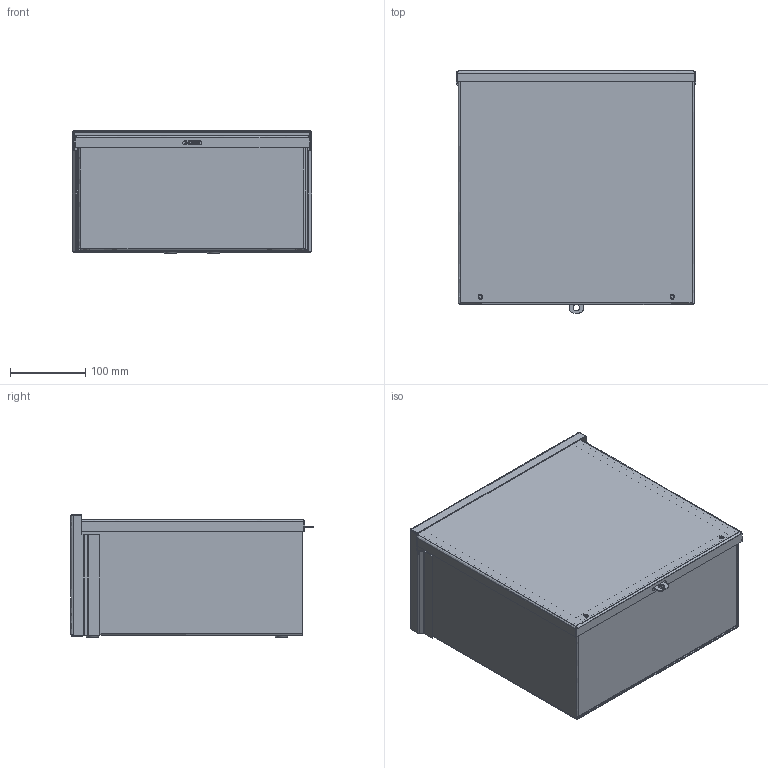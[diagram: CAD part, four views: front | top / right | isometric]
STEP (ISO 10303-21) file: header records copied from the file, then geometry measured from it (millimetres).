
FILE_DESCRIPTION((''),'2;1');
FILE_NAME('D:\scratch\ideas\a12r126nk.stp','2006-12-14T10:36:47',( 'User'),('SDRC'),'I-DEAS Master Series 9','UNIX','Yes');
FILE_SCHEMA(('AUTOMOTIVE_DESIGN { 1 0 10303 214 0 1 1 1 }'));
Length unit declared in the file: inch
Products named in the file (7): 13501; 3rsc_wmt_body_12x12x6_nk; 3rsc_top_12x6; 3rsc_bottom_12x6_nk; 3rsc_body_12x12x6; 3rsc_cover_12x12; 78124001
Assembly tree (6 placements, depth 3):
  13501
    3rsc_wmt_body_12x12x6_nk
      3rsc_top_12x6
      3rsc_bottom_12x6_nk
      3rsc_body_12x12x6
    3rsc_cover_12x12
    78124001
Bounding box: 317.5 x 320.75 x 163.83 mm (x, y, z)
Volume: 594648.1 mm3; surface area: 859389 mm2
Topology: 5 solids, 5 shells, 239 faces, 615 edges, 392 vertices
Faces by surface type: bspline 239
Entity records: 7574 total; most frequent: CARTESIAN_POINT 3603, ORIENTED_EDGE 1230, EDGE_CURVE 615, VERTEX_POINT 392, QUASI_UNIFORM_CURVE 308, EDGE_LOOP 273, FACE_OUTER_BOUND 239, ADVANCED_FACE 239
